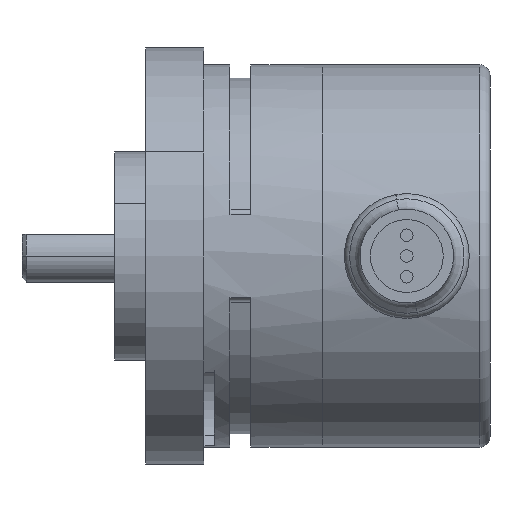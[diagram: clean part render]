
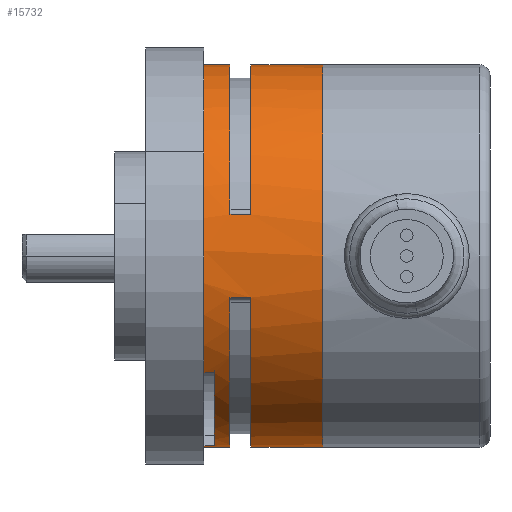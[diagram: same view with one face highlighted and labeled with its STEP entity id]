
A CAD part, front view. The second image highlights one B-rep face of the part: STEP entity #15732.
In plain terms, the highlighted cylindrical face has radius 18.4 mm (diameter 36.8 mm), a partial arc.
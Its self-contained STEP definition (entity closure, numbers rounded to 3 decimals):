
#3601 = CARTESIAN_POINT ( 'NONE',  ( -42.611, -12.845, -4. ) ) ;
#3672 = DIRECTION ( 'NONE',  ( 0., 0., -1. ) ) ;
#3673 = DIRECTION ( 'NONE',  ( 1., 0., 0. ) ) ;
#3674 = CARTESIAN_POINT ( 'NONE',  ( -42.611, 5.115, 0. ) ) ;
#3675 = AXIS2_PLACEMENT_3D ( 'NONE', #3674, #3673, #3672 ) ;
#3676 = CIRCLE ( 'NONE', #3675, 18.4 ) ;
#3678 = DIRECTION ( 'NONE',  ( -1., 0., 0. ) ) ;
#3679 = VECTOR ( 'NONE', #3678, 1000. ) ;
#3680 = CARTESIAN_POINT ( 'NONE',  ( -42.611, -12.845, -4. ) ) ;
#3681 = LINE ( 'NONE', #3680, #3679 ) ;
#3682 = CARTESIAN_POINT ( 'NONE',  ( -44.611, -12.845, -4. ) ) ;
#3683 = LINE ( 'NONE', #3738, #3737 ) ;
#3701 = DIRECTION ( 'NONE',  ( 0., 0., -1. ) ) ;
#3702 = DIRECTION ( 'NONE',  ( 1., 0., 0. ) ) ;
#3703 = CARTESIAN_POINT ( 'NONE',  ( -44.611, 5.115, 0. ) ) ;
#3704 = AXIS2_PLACEMENT_3D ( 'NONE', #3703, #3702, #3701 ) ;
#3710 = CIRCLE ( 'NONE', #3704, 18.4 ) ;
#3725 = CARTESIAN_POINT ( 'NONE',  ( -46.111, -9.456, -11.237 ) ) ;
#3726 = DIRECTION ( 'NONE',  ( -1., 0., 0. ) ) ;
#3727 = VECTOR ( 'NONE', #3726, 1000. ) ;
#3728 = CARTESIAN_POINT ( 'NONE',  ( -46.111, -9.456, -11.237 ) ) ;
#3729 = LINE ( 'NONE', #3728, #3727 ) ;
#3730 = DIRECTION ( 'NONE',  ( 0., 0., 1. ) ) ;
#3731 = DIRECTION ( 'NONE',  ( -1., 0., 0. ) ) ;
#3732 = CARTESIAN_POINT ( 'NONE',  ( -46.111, 5.115, 0. ) ) ;
#3733 = AXIS2_PLACEMENT_3D ( 'NONE', #3732, #3731, #3730 ) ;
#3734 = CIRCLE ( 'NONE', #3733, 18.4 ) ;
#3735 = CARTESIAN_POINT ( 'NONE',  ( -46.111, 2.669, -18.237 ) ) ;
#3736 = DIRECTION ( 'NONE',  ( -1., 0., 0. ) ) ;
#3737 = VECTOR ( 'NONE', #3736, 1000. ) ;
#3738 = CARTESIAN_POINT ( 'NONE',  ( -46.111, 2.669, -18.237 ) ) ;
#15143 = EDGE_CURVE ( 'NONE', #15212, #15218, #21057, .T. ) ;
#15160 = VERTEX_POINT ( 'NONE', #21106 ) ;
#15162 = VERTEX_POINT ( 'NONE', #21105 ) ;
#15163 = EDGE_CURVE ( 'NONE', #15160, #15162, #21104, .T. ) ;
#15175 = EDGE_CURVE ( 'NONE', #15180, #15177, #21141, .T. ) ;
#15177 = VERTEX_POINT ( 'NONE', #21181 ) ;
#15180 = VERTEX_POINT ( 'NONE', #21172 ) ;
#15208 = EDGE_CURVE ( 'NONE', #15213, #15214, #21238, .T. ) ;
#15212 = VERTEX_POINT ( 'NONE', #21219 ) ;
#15213 = VERTEX_POINT ( 'NONE', #21218 ) ;
#15214 = VERTEX_POINT ( 'NONE', #21217 ) ;
#15218 = VERTEX_POINT ( 'NONE', #21271 ) ;
#15662 = VERTEX_POINT ( 'NONE', #22659 ) ;
#15668 = EDGE_CURVE ( 'NONE', #15679, #15177, #22647, .T. ) ;
#15679 = VERTEX_POINT ( 'NONE', #22687 ) ;
#15689 = EDGE_CURVE ( 'NONE', #15162, #15662, #22676, .T. ) ;
#15714 = VERTEX_POINT ( 'NONE', #22775 ) ;
#15715 = ORIENTED_EDGE ( 'NONE', *, *, #15143, .T. ) ;
#15716 = ORIENTED_EDGE ( 'NONE', *, *, #15175, .T. ) ;
#15717 = VERTEX_POINT ( 'NONE', #22774 ) ;
#15718 = EDGE_CURVE ( 'NONE', #15180, #15714, #22765, .T. ) ;
#15719 = ORIENTED_EDGE ( 'NONE', *, *, #15208, .F. ) ;
#15720 = ORIENTED_EDGE ( 'NONE', *, *, #15728, .T. ) ;
#15721 = EDGE_CURVE ( 'NONE', #15717, #15714, #22760, .T. ) ;
#15722 = ORIENTED_EDGE ( 'NONE', *, *, #15721, .T. ) ;
#15723 = ORIENTED_EDGE ( 'NONE', *, *, #15718, .F. ) ;
#15725 = EDGE_CURVE ( 'NONE', #15218, #15717, #22813, .T. ) ;
#15726 = ORIENTED_EDGE ( 'NONE', *, *, #15725, .T. ) ;
#15728 = EDGE_CURVE ( 'NONE', #15213, #15212, #22807, .T. ) ;
#15732 = ADVANCED_FACE ( 'NONE', ( #22797 ), #22839, .T. ) ;
#15734 = EDGE_LOOP ( 'NONE', ( #15719, #15720, #15715, #15726, #15722, #15723, #15716, #24267, #24221, #24216, #24215, #24188, #24270, #24202, #24192, #24203 ) ) ;
#21054 = DIRECTION ( 'NONE',  ( -1., 0., 0. ) ) ;
#21055 = VECTOR ( 'NONE', #21054, 1000. ) ;
#21056 = CARTESIAN_POINT ( 'NONE',  ( -52.111, 5.115, 18.4 ) ) ;
#21057 = LINE ( 'NONE', #21056, #21055 ) ;
#21101 = DIRECTION ( 'NONE',  ( -1., 0., 0. ) ) ;
#21102 = VECTOR ( 'NONE', #21101, 1000. ) ;
#21103 = CARTESIAN_POINT ( 'NONE',  ( -52.111, 5.115, -18.4 ) ) ;
#21104 = LINE ( 'NONE', #21103, #21102 ) ;
#21105 = CARTESIAN_POINT ( 'NONE',  ( -47.111, 5.115, -18.4 ) ) ;
#21106 = CARTESIAN_POINT ( 'NONE',  ( -44.611, 5.115, -18.4 ) ) ;
#21137 = DIRECTION ( 'NONE',  ( -1., 0., 0. ) ) ;
#21138 = VECTOR ( 'NONE', #21137, 1000. ) ;
#21139 = CARTESIAN_POINT ( 'NONE',  ( -52.111, 5.115, 18.4 ) ) ;
#21141 = LINE ( 'NONE', #21139, #21138 ) ;
#21172 = CARTESIAN_POINT ( 'NONE',  ( -44.611, 5.115, 18.4 ) ) ;
#21181 = CARTESIAN_POINT ( 'NONE',  ( -47.111, 5.115, 18.4 ) ) ;
#21217 = CARTESIAN_POINT ( 'NONE',  ( -42.611, 5.115, -18.4 ) ) ;
#21218 = CARTESIAN_POINT ( 'NONE',  ( -35.711, 5.115, -18.4 ) ) ;
#21219 = CARTESIAN_POINT ( 'NONE',  ( -35.711, 5.115, 18.4 ) ) ;
#21230 = DIRECTION ( 'NONE',  ( -1., 0., 0. ) ) ;
#21231 = VECTOR ( 'NONE', #21230, 1000. ) ;
#21232 = CARTESIAN_POINT ( 'NONE',  ( -52.111, 5.115, -18.4 ) ) ;
#21238 = LINE ( 'NONE', #21232, #21231 ) ;
#21271 = CARTESIAN_POINT ( 'NONE',  ( -42.611, 5.115, 18.4 ) ) ;
#22643 = DIRECTION ( 'NONE',  ( 0., 0., 1. ) ) ;
#22644 = DIRECTION ( 'NONE',  ( -1., 0., 0. ) ) ;
#22645 = CARTESIAN_POINT ( 'NONE',  ( -47.111, 5.115, 0. ) ) ;
#22646 = AXIS2_PLACEMENT_3D ( 'NONE', #22645, #22644, #22643 ) ;
#22647 = CIRCLE ( 'NONE', #22646, 18.4 ) ;
#22659 = CARTESIAN_POINT ( 'NONE',  ( -47.111, 2.669, -18.237 ) ) ;
#22672 = DIRECTION ( 'NONE',  ( 0., 0., 1. ) ) ;
#22673 = DIRECTION ( 'NONE',  ( -1., 0., 0. ) ) ;
#22674 = CARTESIAN_POINT ( 'NONE',  ( -47.111, 5.115, 0. ) ) ;
#22675 = AXIS2_PLACEMENT_3D ( 'NONE', #22674, #22673, #22672 ) ;
#22676 = CIRCLE ( 'NONE', #22675, 18.4 ) ;
#22687 = CARTESIAN_POINT ( 'NONE',  ( -47.111, -9.456, -11.237 ) ) ;
#22756 = CARTESIAN_POINT ( 'NONE',  ( -42.611, 5.115, 0. ) ) ;
#22757 = DIRECTION ( 'NONE',  ( -1., 0., 0. ) ) ;
#22758 = VECTOR ( 'NONE', #22757, 1000. ) ;
#22759 = CARTESIAN_POINT ( 'NONE',  ( -42.611, -12.845, 4. ) ) ;
#22760 = LINE ( 'NONE', #22759, #22758 ) ;
#22761 = DIRECTION ( 'NONE',  ( 0., 0., -1. ) ) ;
#22762 = DIRECTION ( 'NONE',  ( 1., 0., 0. ) ) ;
#22763 = CARTESIAN_POINT ( 'NONE',  ( -44.611, 5.115, 0. ) ) ;
#22764 = AXIS2_PLACEMENT_3D ( 'NONE', #22763, #22762, #22761 ) ;
#22765 = CIRCLE ( 'NONE', #22764, 18.4 ) ;
#22774 = CARTESIAN_POINT ( 'NONE',  ( -42.611, -12.845, 4. ) ) ;
#22775 = CARTESIAN_POINT ( 'NONE',  ( -44.611, -12.845, 4. ) ) ;
#22797 = FACE_OUTER_BOUND ( 'NONE', #15734, .T. ) ;
#22803 = DIRECTION ( 'NONE',  ( 0., 0., 1. ) ) ;
#22804 = DIRECTION ( 'NONE',  ( -1., 0., 0. ) ) ;
#22805 = CARTESIAN_POINT ( 'NONE',  ( -35.711, 5.115, 0. ) ) ;
#22806 = AXIS2_PLACEMENT_3D ( 'NONE', #22805, #22804, #22803 ) ;
#22807 = CIRCLE ( 'NONE', #22806, 18.4 ) ;
#22810 = DIRECTION ( 'NONE',  ( 0., 0., -1. ) ) ;
#22811 = DIRECTION ( 'NONE',  ( 1., 0., 0. ) ) ;
#22812 = AXIS2_PLACEMENT_3D ( 'NONE', #22756, #22811, #22810 ) ;
#22813 = CIRCLE ( 'NONE', #22812, 18.4 ) ;
#22836 = DIRECTION ( 'NONE',  ( 0., 0., 1. ) ) ;
#22837 = DIRECTION ( 'NONE',  ( -1., 0., 0. ) ) ;
#22838 = AXIS2_PLACEMENT_3D ( 'NONE', #22840, #22837, #22836 ) ;
#22839 = CYLINDRICAL_SURFACE ( 'NONE', #22838, 18.4 ) ;
#22840 = CARTESIAN_POINT ( 'NONE',  ( -52.111, 5.115, 0. ) ) ;
#24188 = ORIENTED_EDGE ( 'NONE', *, *, #15689, .F. ) ;
#24192 = ORIENTED_EDGE ( 'NONE', *, *, #24201, .F. ) ;
#24193 = VERTEX_POINT ( 'NONE', #3601 ) ;
#24200 = VERTEX_POINT ( 'NONE', #3682 ) ;
#24201 = EDGE_CURVE ( 'NONE', #24193, #24200, #3681, .T. ) ;
#24202 = ORIENTED_EDGE ( 'NONE', *, *, #24212, .F. ) ;
#24203 = ORIENTED_EDGE ( 'NONE', *, *, #24205, .T. ) ;
#24205 = EDGE_CURVE ( 'NONE', #24193, #15214, #3676, .T. ) ;
#24212 = EDGE_CURVE ( 'NONE', #24200, #15160, #3710, .T. ) ;
#24214 = EDGE_CURVE ( 'NONE', #24217, #15662, #3683, .T. ) ;
#24215 = ORIENTED_EDGE ( 'NONE', *, *, #24214, .T. ) ;
#24216 = ORIENTED_EDGE ( 'NONE', *, *, #24218, .F. ) ;
#24217 = VERTEX_POINT ( 'NONE', #3735 ) ;
#24218 = EDGE_CURVE ( 'NONE', #24217, #24220, #3734, .T. ) ;
#24219 = EDGE_CURVE ( 'NONE', #24220, #15679, #3729, .T. ) ;
#24220 = VERTEX_POINT ( 'NONE', #3725 ) ;
#24221 = ORIENTED_EDGE ( 'NONE', *, *, #24219, .F. ) ;
#24267 = ORIENTED_EDGE ( 'NONE', *, *, #15668, .F. ) ;
#24270 = ORIENTED_EDGE ( 'NONE', *, *, #15163, .F. ) ;
